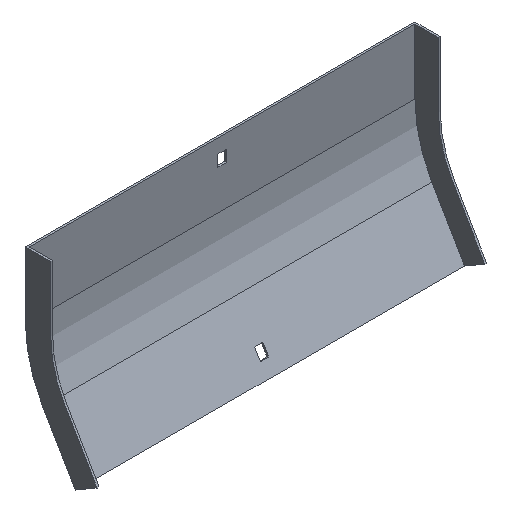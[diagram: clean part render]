
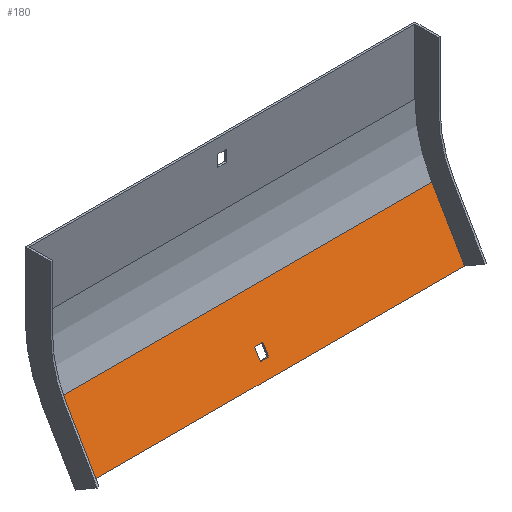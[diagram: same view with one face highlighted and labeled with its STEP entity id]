
A CAD part, isometric view. The second image highlights one B-rep face of the part: STEP entity #180.
In plain terms, the highlighted planar face has unit normal (0, -0.866, 0.5).
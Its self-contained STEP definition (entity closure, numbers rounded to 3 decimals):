
#10 = VERTEX_POINT ( 'NONE', #845 ) ;
#12 = VECTOR ( 'NONE', #335, 1000. ) ;
#25 = VECTOR ( 'NONE', #155, 1000. ) ;
#38 = CARTESIAN_POINT ( 'NONE',  ( -3.25, -14.897, -101.2 ) ) ;
#42 = CARTESIAN_POINT ( 'NONE',  ( -152., -14.897, -101.2 ) ) ;
#59 = FACE_OUTER_BOUND ( 'NONE', #358, .T. ) ;
#69 = DIRECTION ( 'NONE',  ( 0., 0.5, 0.866 ) ) ;
#74 = VECTOR ( 'NONE', #95, 1000. ) ;
#95 = DIRECTION ( 'NONE',  ( -1., 0., 0. ) ) ;
#121 = ORIENTED_EDGE ( 'NONE', *, *, #216, .T. ) ;
#146 = LINE ( 'NONE', #615, #25 ) ;
#155 = DIRECTION ( 'NONE',  ( -1., 0., 0. ) ) ;
#156 = VECTOR ( 'NONE', #242, 1000. ) ;
#180 = ADVANCED_FACE ( 'NONE', ( #59, #382 ), #325, .T. ) ;
#194 = CARTESIAN_POINT ( 'NONE',  ( 3.25, -14.897, -101.2 ) ) ;
#200 = CARTESIAN_POINT ( 'NONE',  ( 152., -14.897, -101.2 ) ) ;
#215 = VECTOR ( 'NONE', #847, 1000. ) ;
#216 = EDGE_CURVE ( 'NONE', #627, #620, #146, .T. ) ;
#220 = ORIENTED_EDGE ( 'NONE', *, *, #733, .F. ) ;
#234 = ORIENTED_EDGE ( 'NONE', *, *, #739, .T. ) ;
#240 = CARTESIAN_POINT ( 'NONE',  ( -3.25, -34.997, -136.014 ) ) ;
#242 = DIRECTION ( 'NONE',  ( 0., 0.5, 0.866 ) ) ;
#252 = CARTESIAN_POINT ( 'NONE',  ( -3.25, -30.497, -128.22 ) ) ;
#256 = CARTESIAN_POINT ( 'NONE',  ( 153.5, -30.497, -128.22 ) ) ;
#261 = DIRECTION ( 'NONE',  ( 0., -0.5, -0.866 ) ) ;
#269 = VERTEX_POINT ( 'NONE', #353 ) ;
#273 = LINE ( 'NONE', #200, #12 ) ;
#279 = LINE ( 'NONE', #608, #422 ) ;
#312 = DIRECTION ( 'NONE',  ( 1., 0., 0. ) ) ;
#325 = PLANE ( 'NONE',  #362 ) ;
#335 = DIRECTION ( 'NONE',  ( 0., 0.5, 0.866 ) ) ;
#343 = EDGE_CURVE ( 'NONE', #620, #557, #509, .T. ) ;
#353 = CARTESIAN_POINT ( 'NONE',  ( 3.25, -30.497, -128.22 ) ) ;
#357 = ORIENTED_EDGE ( 'NONE', *, *, #675, .T. ) ;
#358 = EDGE_LOOP ( 'NONE', ( #220, #629, #810, #831 ) ) ;
#362 = AXIS2_PLACEMENT_3D ( 'NONE', #597, #857, #261 ) ;
#366 = VERTEX_POINT ( 'NONE', #706 ) ;
#382 = FACE_BOUND ( 'NONE', #633, .T. ) ;
#390 = VECTOR ( 'NONE', #312, 1000. ) ;
#394 = EDGE_CURVE ( 'NONE', #749, #10, #445, .T. ) ;
#397 = CARTESIAN_POINT ( 'NONE',  ( 153.5, -14.897, -101.2 ) ) ;
#417 = DIRECTION ( 'NONE',  ( 0., -0.5, -0.866 ) ) ;
#422 = VECTOR ( 'NONE', #69, 1000. ) ;
#445 = LINE ( 'NONE', #699, #74 ) ;
#452 = VECTOR ( 'NONE', #417, 1000. ) ;
#488 = CARTESIAN_POINT ( 'NONE',  ( 152., -40.497, -145.541 ) ) ;
#509 = LINE ( 'NONE', #38, #156 ) ;
#544 = EDGE_CURVE ( 'NONE', #366, #673, #715, .T. ) ;
#557 = VERTEX_POINT ( 'NONE', #252 ) ;
#597 = CARTESIAN_POINT ( 'NONE',  ( 153.5, -14.897, -101.2 ) ) ;
#608 = CARTESIAN_POINT ( 'NONE',  ( -152., -14.897, -101.2 ) ) ;
#614 = ORIENTED_EDGE ( 'NONE', *, *, #343, .T. ) ;
#615 = CARTESIAN_POINT ( 'NONE',  ( 153.5, -34.997, -136.014 ) ) ;
#620 = VERTEX_POINT ( 'NONE', #240 ) ;
#627 = VERTEX_POINT ( 'NONE', #766 ) ;
#629 = ORIENTED_EDGE ( 'NONE', *, *, #394, .F. ) ;
#633 = EDGE_LOOP ( 'NONE', ( #121, #614, #357, #234 ) ) ;
#673 = VERTEX_POINT ( 'NONE', #42 ) ;
#675 = EDGE_CURVE ( 'NONE', #557, #269, #709, .T. ) ;
#699 = CARTESIAN_POINT ( 'NONE',  ( 153.5, -40.497, -145.541 ) ) ;
#706 = CARTESIAN_POINT ( 'NONE',  ( 152., -14.897, -101.2 ) ) ;
#709 = LINE ( 'NONE', #256, #390 ) ;
#715 = LINE ( 'NONE', #397, #215 ) ;
#733 = EDGE_CURVE ( 'NONE', #10, #673, #279, .T. ) ;
#735 = LINE ( 'NONE', #194, #452 ) ;
#739 = EDGE_CURVE ( 'NONE', #269, #627, #735, .T. ) ;
#749 = VERTEX_POINT ( 'NONE', #488 ) ;
#751 = EDGE_CURVE ( 'NONE', #749, #366, #273, .T. ) ;
#766 = CARTESIAN_POINT ( 'NONE',  ( 3.25, -34.997, -136.014 ) ) ;
#810 = ORIENTED_EDGE ( 'NONE', *, *, #751, .T. ) ;
#831 = ORIENTED_EDGE ( 'NONE', *, *, #544, .T. ) ;
#845 = CARTESIAN_POINT ( 'NONE',  ( -152., -40.497, -145.541 ) ) ;
#847 = DIRECTION ( 'NONE',  ( -1., 0., 0. ) ) ;
#857 = DIRECTION ( 'NONE',  ( 0., -0.866, 0.5 ) ) ;
